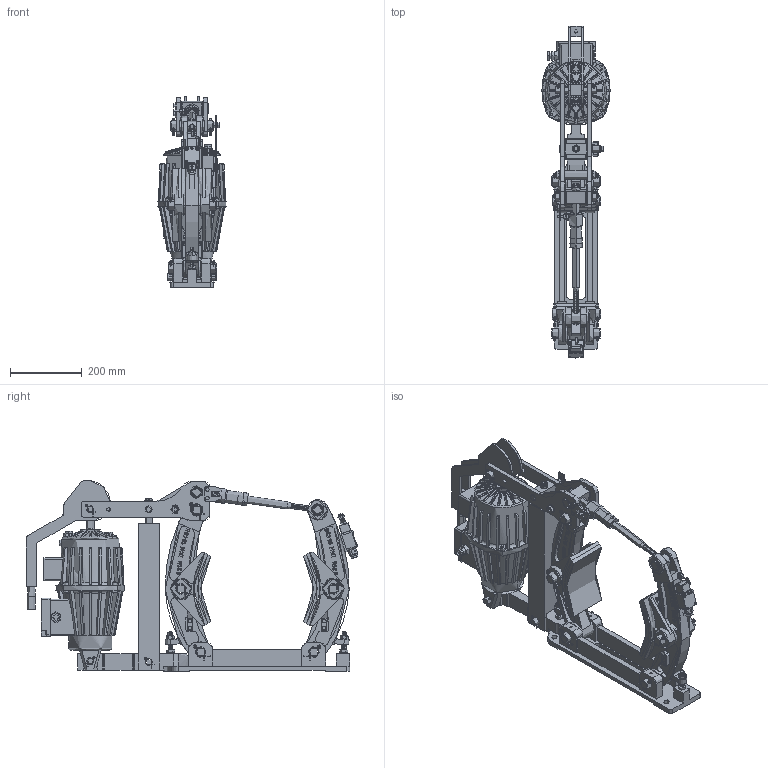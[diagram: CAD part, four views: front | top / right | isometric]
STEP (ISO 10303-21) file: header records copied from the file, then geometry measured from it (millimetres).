
FILE_DESCRIPTION((''),'2;1');
FILE_NAME('4459_314_508_E00001','2018-02-01T',('BOLS'),(''),'CREO PARAMETRIC BY PTC INC, 2017020','CREO PARAMETRIC BY PTC INC, 2017020','');
FILE_SCHEMA(('CONFIG_CONTROL_DESIGN'));
Products named in the file (1): 4459_314_508_E00001
Bounding box: 192 x 924.13 x 531.5 mm (x, y, z)
Topology: 0 solids, 5254 shells, 5787 faces, 35886 edges, 34772 vertices
Faces by surface type: plane 2864, cylinder 2020, cone 676, torus 211, bspline 16
Entity records: 584452 total; most frequent: CARTESIAN_POINT 155365, PRESENTATION_STYLE_ASSIGNMENT 46836, DIRECTION 42185, STYLED_ITEM 41126, ORIENTED_EDGE 36989, CURVE_STYLE 35877, EDGE_CURVE 35877, VERTEX_POINT 34777
